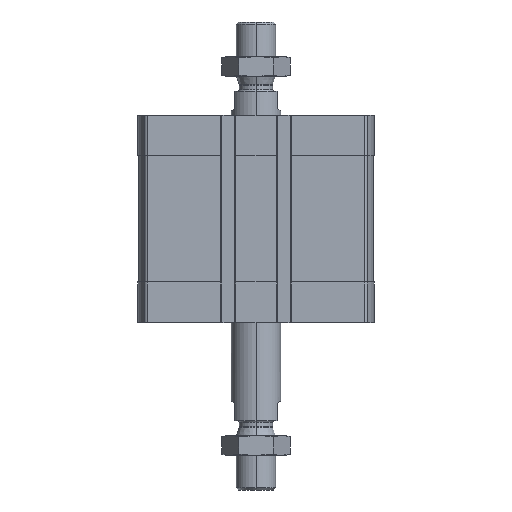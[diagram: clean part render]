
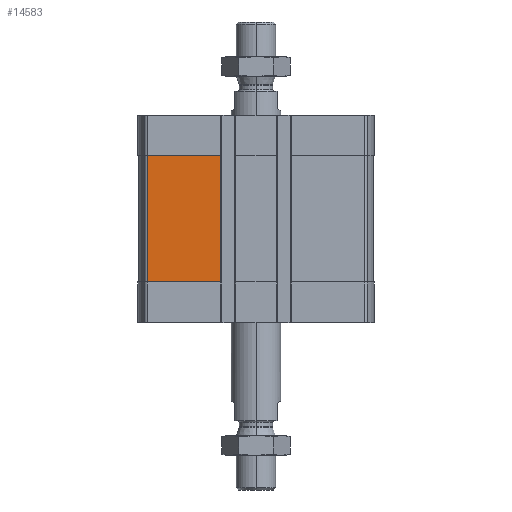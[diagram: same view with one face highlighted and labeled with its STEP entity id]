
A CAD part, left-side view. The second image highlights one B-rep face of the part: STEP entity #14583.
In plain terms, the highlighted planar face has unit normal (-1, 0, 0).
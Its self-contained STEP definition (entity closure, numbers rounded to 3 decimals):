
#242 = VECTOR ( 'NONE', #2103, 1000. ) ;
#421 = CARTESIAN_POINT ( 'NONE',  ( -47.5, 43.743, -16.5 ) ) ;
#628 = VERTEX_POINT ( 'NONE', #14978 ) ;
#1661 = CARTESIAN_POINT ( 'NONE',  ( -47.5, 43.743, -67.5 ) ) ;
#1760 = CARTESIAN_POINT ( 'NONE',  ( -47.5, 43.743, -67.5 ) ) ;
#2048 = ORIENTED_EDGE ( 'NONE', *, *, #5825, .T. ) ;
#2103 = DIRECTION ( 'NONE',  ( 0., 0., 1. ) ) ;
#2673 = VECTOR ( 'NONE', #12651, 1000. ) ;
#3361 = EDGE_CURVE ( 'NONE', #628, #7508, #6160, .T. ) ;
#3403 = CARTESIAN_POINT ( 'NONE',  ( -47.5, 14.3, -67.5 ) ) ;
#4213 = ORIENTED_EDGE ( 'NONE', *, *, #6095, .T. ) ;
#4383 = DIRECTION ( 'NONE',  ( -1., 0., 0. ) ) ;
#4887 = ORIENTED_EDGE ( 'NONE', *, *, #3361, .F. ) ;
#5012 = DIRECTION ( 'NONE',  ( 0., -1., 0. ) ) ;
#5825 = EDGE_CURVE ( 'NONE', #8413, #13065, #11606, .T. ) ;
#6095 = EDGE_CURVE ( 'NONE', #628, #8413, #13992, .T. ) ;
#6160 = LINE ( 'NONE', #7693, #242 ) ;
#6204 = DIRECTION ( 'NONE',  ( 0., 0., 1. ) ) ;
#7477 = CARTESIAN_POINT ( 'NONE',  ( -47.5, 14.3, -67.5 ) ) ;
#7508 = VERTEX_POINT ( 'NONE', #421 ) ;
#7693 = CARTESIAN_POINT ( 'NONE',  ( -47.5, 43.743, -67.5 ) ) ;
#7842 = VECTOR ( 'NONE', #6204, 1000. ) ;
#8413 = VERTEX_POINT ( 'NONE', #3403 ) ;
#8547 = EDGE_CURVE ( 'NONE', #7508, #13065, #17499, .T. ) ;
#9719 = AXIS2_PLACEMENT_3D ( 'NONE', #1760, #4383, #16518 ) ;
#9857 = PLANE ( 'NONE',  #9719 ) ;
#9924 = ORIENTED_EDGE ( 'NONE', *, *, #8547, .F. ) ;
#10316 = CARTESIAN_POINT ( 'NONE',  ( -47.5, 43.743, -16.5 ) ) ;
#11386 = FACE_OUTER_BOUND ( 'NONE', #15262, .T. ) ;
#11606 = LINE ( 'NONE', #7477, #7842 ) ;
#12651 = DIRECTION ( 'NONE',  ( 0., -1., 0. ) ) ;
#13065 = VERTEX_POINT ( 'NONE', #15187 ) ;
#13992 = LINE ( 'NONE', #1661, #2673 ) ;
#14583 = ADVANCED_FACE ( 'NONE', ( #11386 ), #9857, .T. ) ;
#14612 = VECTOR ( 'NONE', #5012, 1000. ) ;
#14978 = CARTESIAN_POINT ( 'NONE',  ( -47.5, 43.743, -67.5 ) ) ;
#15187 = CARTESIAN_POINT ( 'NONE',  ( -47.5, 14.3, -16.5 ) ) ;
#15262 = EDGE_LOOP ( 'NONE', ( #9924, #4887, #4213, #2048 ) ) ;
#16518 = DIRECTION ( 'NONE',  ( 0., 0., 1. ) ) ;
#17499 = LINE ( 'NONE', #10316, #14612 ) ;
